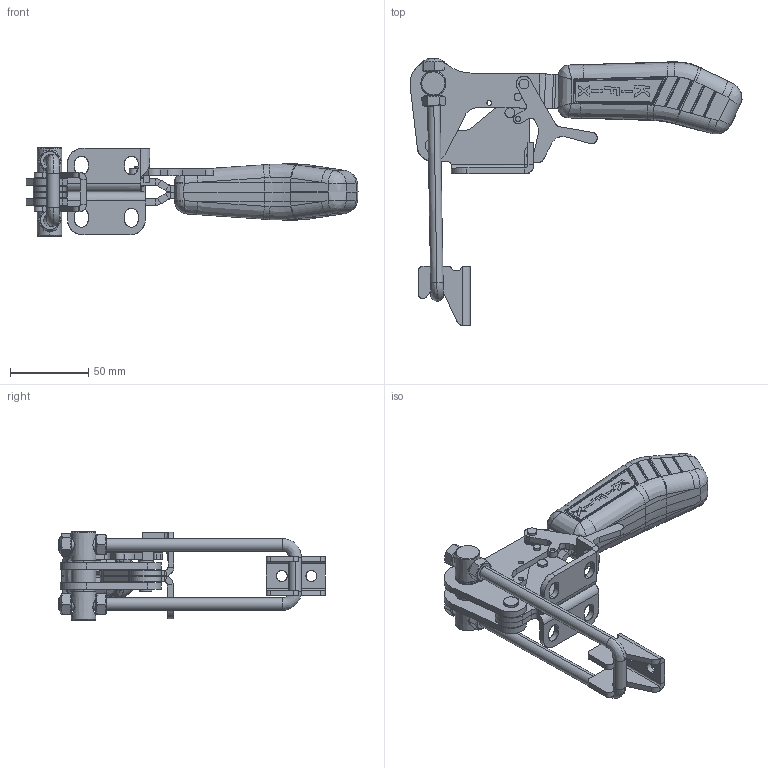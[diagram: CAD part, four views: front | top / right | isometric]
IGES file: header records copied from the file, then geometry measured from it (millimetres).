
Start section: SolidWorks IGES file using analytic representation for surfaces
Global section: file name: C:\Projetos\Grampos\KF-263\KF-263 DTR\KF-263 DTR.IGS; native system: SolidWorks 2013; preprocessor: SolidWorks 2013; author: Ricardo; date: 140822.092226; units: millimetre
Bounding box: 212.63 x 170.96 x 56.5 mm (x, y, z)
Surface area: 83724.8 mm2 (no closed solid volume)
Topology: 0 solids, 0 shells, 809 faces, 9906 edges, 9883 vertices
Faces by surface type: bspline 440, revolution 369
